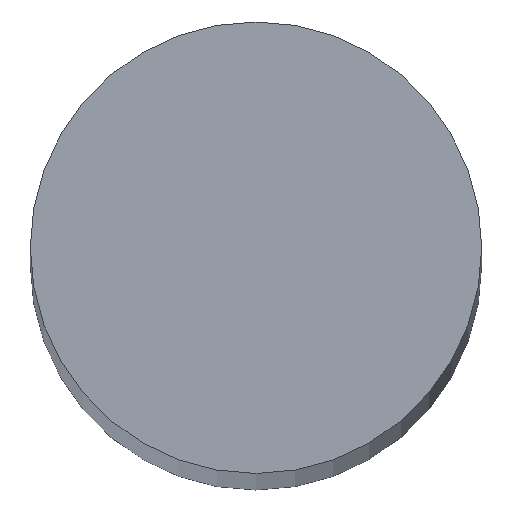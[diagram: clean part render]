
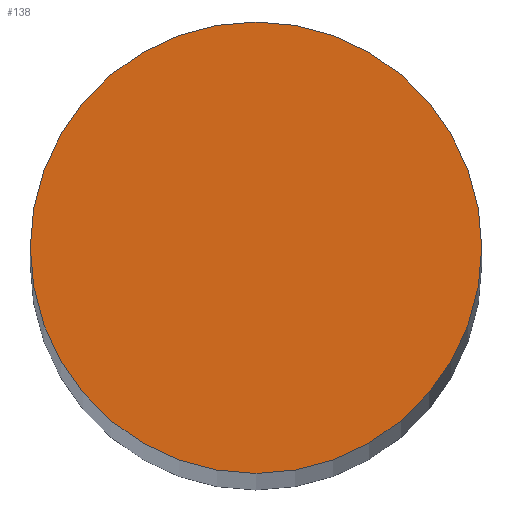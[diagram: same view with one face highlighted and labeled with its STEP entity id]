
A CAD part, top view. The second image highlights one B-rep face of the part: STEP entity #138.
In plain terms, the highlighted planar face has unit normal (0, 0, 1).
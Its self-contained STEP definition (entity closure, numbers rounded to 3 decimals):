
#13 = FACE_OUTER_BOUND ( 'NONE', #15, .T. ) ;
#14 = CIRCLE ( 'NONE', #52, 6. ) ;
#15 = EDGE_LOOP ( 'NONE', ( #33, #23 ) ) ;
#23 = ORIENTED_EDGE ( 'NONE', *, *, #60, .T. ) ;
#29 = CIRCLE ( 'NONE', #56, 6. ) ;
#33 = ORIENTED_EDGE ( 'NONE', *, *, #51, .T. ) ;
#51 = EDGE_CURVE ( 'NONE', #64, #63, #29, .T. ) ;
#52 = AXIS2_PLACEMENT_3D ( 'NONE', #115, #113, #112 ) ;
#56 = AXIS2_PLACEMENT_3D ( 'NONE', #92, #88, #84 ) ;
#60 = EDGE_CURVE ( 'NONE', #63, #64, #14, .T. ) ;
#63 = VERTEX_POINT ( 'NONE', #111 ) ;
#64 = VERTEX_POINT ( 'NONE', #109 ) ;
#70 = AXIS2_PLACEMENT_3D ( 'NONE', #91, #87, #86 ) ;
#84 = DIRECTION ( 'NONE',  ( 1., 0., 0. ) ) ;
#86 = DIRECTION ( 'NONE',  ( 1., 0., 0. ) ) ;
#87 = DIRECTION ( 'NONE',  ( 0., 0., 1. ) ) ;
#88 = DIRECTION ( 'NONE',  ( 0., 0., 1. ) ) ;
#90 = PLANE ( 'NONE',  #70 ) ;
#91 = CARTESIAN_POINT ( 'NONE',  ( 0., 0., 126. ) ) ;
#92 = CARTESIAN_POINT ( 'NONE',  ( 0., 0., 126. ) ) ;
#109 = CARTESIAN_POINT ( 'NONE',  ( -6., 0., 126. ) ) ;
#111 = CARTESIAN_POINT ( 'NONE',  ( 6., 0., 126. ) ) ;
#112 = DIRECTION ( 'NONE',  ( 1., 0., 0. ) ) ;
#113 = DIRECTION ( 'NONE',  ( 0., 0., 1. ) ) ;
#115 = CARTESIAN_POINT ( 'NONE',  ( 0., 0., 126. ) ) ;
#138 = ADVANCED_FACE ( 'NONE', ( #13 ), #90, .T. ) ;
